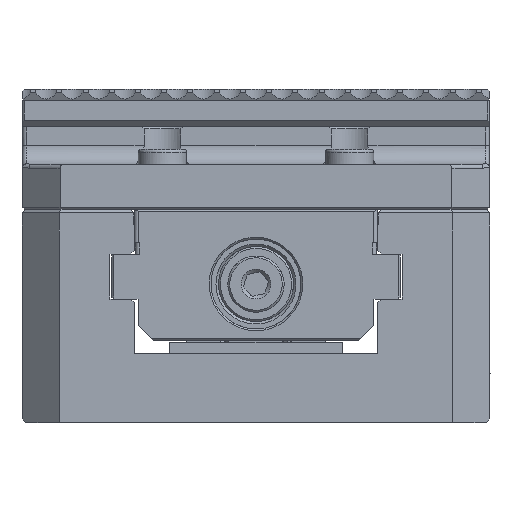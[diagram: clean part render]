
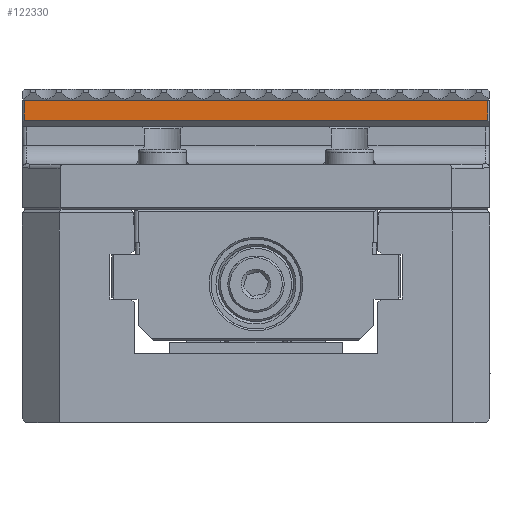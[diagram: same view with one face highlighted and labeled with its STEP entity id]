
A CAD part, left-side view. The second image highlights one B-rep face of the part: STEP entity #122330.
In plain terms, the highlighted planar face has unit normal (-1, 0, 0).
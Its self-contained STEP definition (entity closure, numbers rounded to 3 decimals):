
#1515 = EDGE_CURVE ( 'NONE', #143122, #17131, #72110, .T. ) ;
#5679 = DIRECTION ( 'NONE',  ( 0., 1., 0. ) ) ;
#8145 = ORIENTED_EDGE ( 'NONE', *, *, #1515, .F. ) ;
#17131 = VERTEX_POINT ( 'NONE', #155668 ) ;
#21528 = EDGE_LOOP ( 'NONE', ( #52109, #129465, #142673, #8145 ) ) ;
#23744 = B_SPLINE_CURVE_WITH_KNOTS ( 'NONE', 3,
 ( #30756, #71612, #83795, #147285 ),
 .UNSPECIFIED., .F., .F.,
 ( 4, 4 ),
 ( 0., 1. ),
 .UNSPECIFIED. ) ;
#24761 = CARTESIAN_POINT ( 'NONE',  ( -51., -61.85, 95.256 ) ) ;
#30756 = CARTESIAN_POINT ( 'NONE',  ( -51., 61.85, 91.768 ) ) ;
#32808 = CARTESIAN_POINT ( 'NONE',  ( -51., 20.617, 97. ) ) ;
#38675 = CARTESIAN_POINT ( 'NONE',  ( -51., -61.85, 93.512 ) ) ;
#44866 = EDGE_CURVE ( 'NONE', #106636, #135469, #23744, .T. ) ;
#47312 = AXIS2_PLACEMENT_3D ( 'NONE', #71762, #150878, #5679 ) ;
#49658 = EDGE_CURVE ( 'NONE', #143122, #135469, #51064, .T. ) ;
#51064 = B_SPLINE_CURVE_WITH_KNOTS ( 'NONE', 3,
 ( #111059, #69363, #32808, #122407 ),
 .UNSPECIFIED., .F., .F.,
 ( 4, 4 ),
 ( 0., 1. ),
 .UNSPECIFIED. ) ;
#51714 = CARTESIAN_POINT ( 'NONE',  ( -51., -61.85, 97. ) ) ;
#52109 = ORIENTED_EDGE ( 'NONE', *, *, #49658, .T. ) ;
#56982 = PLANE ( 'NONE',  #47312 ) ;
#69363 = CARTESIAN_POINT ( 'NONE',  ( -51., -20.617, 97. ) ) ;
#71612 = CARTESIAN_POINT ( 'NONE',  ( -51., 61.85, 93.512 ) ) ;
#71762 = CARTESIAN_POINT ( 'NONE',  ( -51., 62.35, 90. ) ) ;
#72110 = B_SPLINE_CURVE_WITH_KNOTS ( 'NONE', 3,
 ( #51714, #24761, #38675, #168313 ),
 .UNSPECIFIED., .F., .F.,
 ( 4, 4 ),
 ( 0., 1. ),
 .UNSPECIFIED. ) ;
#75103 = CARTESIAN_POINT ( 'NONE',  ( -51., 20.617, 91.768 ) ) ;
#83615 = CARTESIAN_POINT ( 'NONE',  ( -51., -61.85, 97. ) ) ;
#83795 = CARTESIAN_POINT ( 'NONE',  ( -51., 61.85, 95.256 ) ) ;
#106206 = EDGE_CURVE ( 'NONE', #106636, #17131, #164615, .T. ) ;
#106636 = VERTEX_POINT ( 'NONE', #153166 ) ;
#111059 = CARTESIAN_POINT ( 'NONE',  ( -51., -61.85, 97. ) ) ;
#114237 = CARTESIAN_POINT ( 'NONE',  ( -51., 61.85, 91.768 ) ) ;
#122330 = ADVANCED_FACE ( 'NONE', ( #123945 ), #56982, .F. ) ;
#122407 = CARTESIAN_POINT ( 'NONE',  ( -51., 61.85, 97. ) ) ;
#123945 = FACE_OUTER_BOUND ( 'NONE', #21528, .T. ) ;
#129465 = ORIENTED_EDGE ( 'NONE', *, *, #44866, .F. ) ;
#135469 = VERTEX_POINT ( 'NONE', #159218 ) ;
#142673 = ORIENTED_EDGE ( 'NONE', *, *, #106206, .T. ) ;
#143122 = VERTEX_POINT ( 'NONE', #83615 ) ;
#147285 = CARTESIAN_POINT ( 'NONE',  ( -51., 61.85, 97. ) ) ;
#150878 = DIRECTION ( 'NONE',  ( 1., 0., 0. ) ) ;
#153166 = CARTESIAN_POINT ( 'NONE',  ( -51., 61.85, 91.768 ) ) ;
#155668 = CARTESIAN_POINT ( 'NONE',  ( -51., -61.85, 91.768 ) ) ;
#155923 = CARTESIAN_POINT ( 'NONE',  ( -51., -20.617, 91.768 ) ) ;
#159218 = CARTESIAN_POINT ( 'NONE',  ( -51., 61.85, 97. ) ) ;
#164615 = B_SPLINE_CURVE_WITH_KNOTS ( 'NONE', 3,
 ( #114237, #75103, #155923, #167303 ),
 .UNSPECIFIED., .F., .F.,
 ( 4, 4 ),
 ( 0., 1. ),
 .UNSPECIFIED. ) ;
#167303 = CARTESIAN_POINT ( 'NONE',  ( -51., -61.85, 91.768 ) ) ;
#168313 = CARTESIAN_POINT ( 'NONE',  ( -51., -61.85, 91.768 ) ) ;
